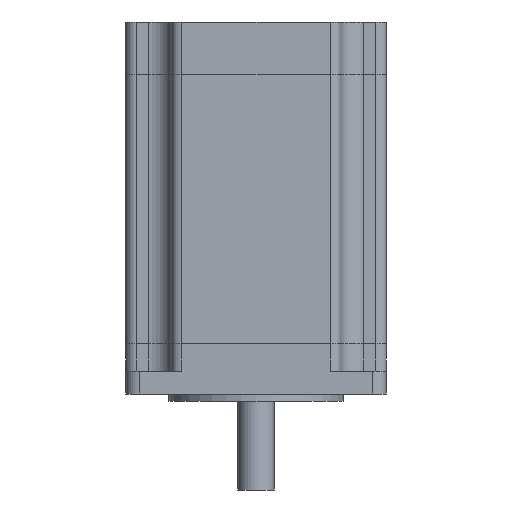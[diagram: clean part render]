
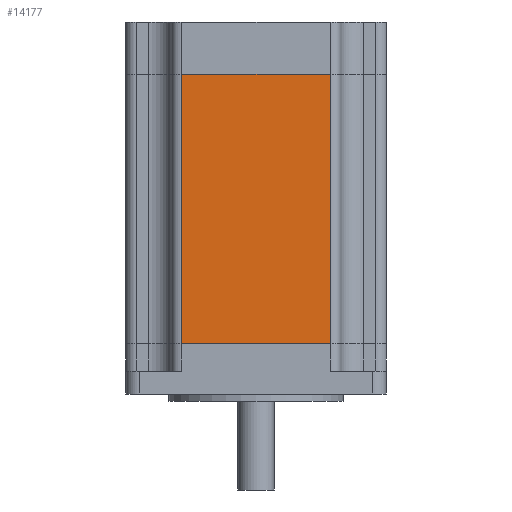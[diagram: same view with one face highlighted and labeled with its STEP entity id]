
A CAD part, front view. The second image highlights one B-rep face of the part: STEP entity #14177.
In plain terms, the highlighted planar face has unit normal (0, -1, 0) as drawn and (-1, 0, 0) by its records, which use the part's own axes.
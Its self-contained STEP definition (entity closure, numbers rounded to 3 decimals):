
#451 = CARTESIAN_POINT ( 'NONE',  ( -28.5, 0., 0. ) ) ;
#687 = VERTEX_POINT ( 'NONE', #19426 ) ;
#797 = EDGE_LOOP ( 'NONE', ( #2020, #8155, #17003, #5226 ) ) ;
#886 = DIRECTION ( 'NONE',  ( 0., 0., -1. ) ) ;
#1609 = DIRECTION ( 'NONE',  ( 0., 1., 0. ) ) ;
#1794 = VECTOR ( 'NONE', #2024, 1000. ) ;
#2020 = ORIENTED_EDGE ( 'NONE', *, *, #8733, .T. ) ;
#2024 = DIRECTION ( 'NONE',  ( 0., -1., 0. ) ) ;
#2043 = AXIS2_PLACEMENT_3D ( 'NONE', #9436, #10986, #1609 ) ;
#2456 = CARTESIAN_POINT ( 'NONE',  ( -28.5, 16.27, 59. ) ) ;
#2791 = CARTESIAN_POINT ( 'NONE',  ( -28.5, 16.27, 59. ) ) ;
#3580 = LINE ( 'NONE', #12747, #19724 ) ;
#5226 = ORIENTED_EDGE ( 'NONE', *, *, #7570, .T. ) ;
#5362 = EDGE_CURVE ( 'NONE', #687, #12714, #3580, .T. ) ;
#7570 = EDGE_CURVE ( 'NONE', #12130, #13557, #10375, .T. ) ;
#8155 = ORIENTED_EDGE ( 'NONE', *, *, #5362, .F. ) ;
#8733 = EDGE_CURVE ( 'NONE', #13557, #12714, #10114, .T. ) ;
#9436 = CARTESIAN_POINT ( 'NONE',  ( -28.5, 0., 59. ) ) ;
#9680 = DIRECTION ( 'NONE',  ( 0., 0., -1. ) ) ;
#10114 = LINE ( 'NONE', #451, #1794 ) ;
#10179 = VECTOR ( 'NONE', #14750, 1000. ) ;
#10375 = LINE ( 'NONE', #2456, #10877 ) ;
#10877 = VECTOR ( 'NONE', #886, 1000. ) ;
#10986 = DIRECTION ( 'NONE',  ( 1., 0., 0. ) ) ;
#12117 = FACE_OUTER_BOUND ( 'NONE', #797, .T. ) ;
#12130 = VERTEX_POINT ( 'NONE', #2791 ) ;
#12714 = VERTEX_POINT ( 'NONE', #16502 ) ;
#12747 = CARTESIAN_POINT ( 'NONE',  ( -28.5, -16.27, 59. ) ) ;
#13159 = CARTESIAN_POINT ( 'NONE',  ( -28.5, 0., 59. ) ) ;
#13557 = VERTEX_POINT ( 'NONE', #18546 ) ;
#14177 = ADVANCED_FACE ( 'NONE', ( #12117 ), #18766, .F. ) ;
#14364 = LINE ( 'NONE', #13159, #10179 ) ;
#14409 = EDGE_CURVE ( 'NONE', #12130, #687, #14364, .T. ) ;
#14750 = DIRECTION ( 'NONE',  ( 0., -1., 0. ) ) ;
#16502 = CARTESIAN_POINT ( 'NONE',  ( -28.5, -16.27, 0. ) ) ;
#17003 = ORIENTED_EDGE ( 'NONE', *, *, #14409, .F. ) ;
#18546 = CARTESIAN_POINT ( 'NONE',  ( -28.5, 16.27, 0. ) ) ;
#18766 = PLANE ( 'NONE',  #2043 ) ;
#19426 = CARTESIAN_POINT ( 'NONE',  ( -28.5, -16.27, 59. ) ) ;
#19724 = VECTOR ( 'NONE', #9680, 1000. ) ;
